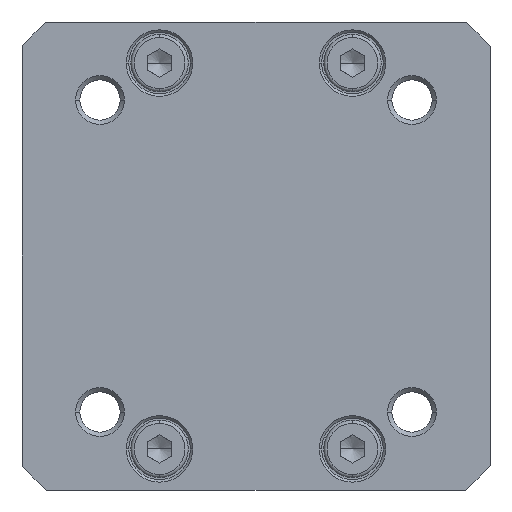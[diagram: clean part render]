
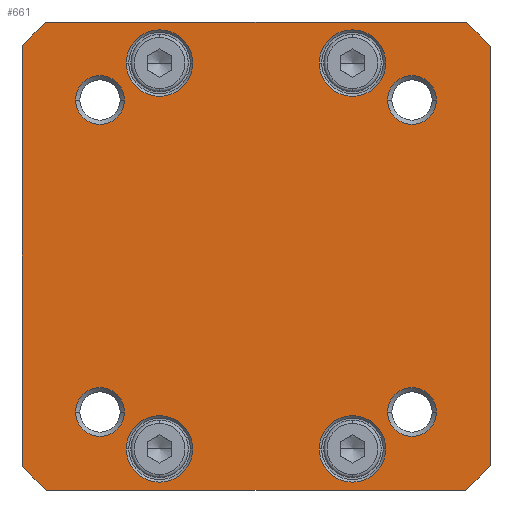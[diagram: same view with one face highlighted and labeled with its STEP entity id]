
A CAD part, front view. The second image highlights one B-rep face of the part: STEP entity #661.
In plain terms, the highlighted planar face has unit normal (0, -1, 0).
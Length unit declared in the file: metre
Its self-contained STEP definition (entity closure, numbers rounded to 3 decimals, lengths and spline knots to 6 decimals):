
#661=ADVANCED_FACE('',(#1272,#1273,#1274,#1275,#1276,#1277,#1278,#1279,#1280),#1281,.F.);
#1272=FACE_OUTER_BOUND('',#2039,.T.);
#1273=FACE_BOUND('',#2040,.T.);
#1274=FACE_BOUND('',#2041,.T.);
#1275=FACE_BOUND('',#2042,.T.);
#1276=FACE_BOUND('',#2043,.T.);
#1277=FACE_BOUND('',#2044,.T.);
#1278=FACE_BOUND('',#2045,.T.);
#1279=FACE_BOUND('',#2046,.T.);
#1280=FACE_BOUND('',#2047,.T.);
#1281=PLANE('',#2048);
#2039=EDGE_LOOP('',(#4085,#4086,#4087,#4088,#4089,#4090,#4091,#4092));
#2040=EDGE_LOOP('',(#4093,#4094));
#2041=EDGE_LOOP('',(#4095,#4096));
#2042=EDGE_LOOP('',(#4097,#4098));
#2043=EDGE_LOOP('',(#4099,#4100));
#2044=EDGE_LOOP('',(#4101,#4102));
#2045=EDGE_LOOP('',(#4103,#4104));
#2046=EDGE_LOOP('',(#4105,#4106));
#2047=EDGE_LOOP('',(#4107,#4108));
#2048=AXIS2_PLACEMENT_3D('',#4109,#4110,#4111);
#4085=ORIENTED_EDGE('',*,*,#5647,.F.);
#4086=ORIENTED_EDGE('',*,*,#5648,.F.);
#4087=ORIENTED_EDGE('',*,*,#5649,.F.);
#4088=ORIENTED_EDGE('',*,*,#5650,.F.);
#4089=ORIENTED_EDGE('',*,*,#5651,.F.);
#4090=ORIENTED_EDGE('',*,*,#5652,.F.);
#4091=ORIENTED_EDGE('',*,*,#5653,.F.);
#4092=ORIENTED_EDGE('',*,*,#5654,.F.);
#4093=ORIENTED_EDGE('',*,*,#5655,.F.);
#4094=ORIENTED_EDGE('',*,*,#5513,.F.);
#4095=ORIENTED_EDGE('',*,*,#5656,.F.);
#4096=ORIENTED_EDGE('',*,*,#5489,.F.);
#4097=ORIENTED_EDGE('',*,*,#5657,.F.);
#4098=ORIENTED_EDGE('',*,*,#5477,.F.);
#4099=ORIENTED_EDGE('',*,*,#5658,.F.);
#4100=ORIENTED_EDGE('',*,*,#5461,.F.);
#4101=ORIENTED_EDGE('',*,*,#5659,.F.);
#4102=ORIENTED_EDGE('',*,*,#5469,.F.);
#4103=ORIENTED_EDGE('',*,*,#5660,.F.);
#4104=ORIENTED_EDGE('',*,*,#5485,.F.);
#4105=ORIENTED_EDGE('',*,*,#5661,.F.);
#4106=ORIENTED_EDGE('',*,*,#5501,.F.);
#4107=ORIENTED_EDGE('',*,*,#5662,.F.);
#4108=ORIENTED_EDGE('',*,*,#5525,.F.);
#4109=CARTESIAN_POINT('',(0.,-0.007625,0.));
#4110=DIRECTION('',(-0.0,1.0,0.0));
#4111=DIRECTION('',(1.0,0.0,0.0));
#5461=EDGE_CURVE('',#6678,#6680,#6681,.T.);
#5469=EDGE_CURVE('',#6692,#6694,#6695,.T.);
#5477=EDGE_CURVE('',#6706,#6708,#6709,.T.);
#5485=EDGE_CURVE('',#6720,#6722,#6723,.T.);
#5489=EDGE_CURVE('',#6726,#6729,#6730,.T.);
#5501=EDGE_CURVE('',#6746,#6749,#6750,.T.);
#5513=EDGE_CURVE('',#6766,#6769,#6770,.T.);
#5525=EDGE_CURVE('',#6786,#6789,#6790,.T.);
#5647=EDGE_CURVE('',#7015,#7016,#7017,.T.);
#5648=EDGE_CURVE('',#7018,#7015,#7019,.T.);
#5649=EDGE_CURVE('',#7020,#7018,#7021,.T.);
#5650=EDGE_CURVE('',#7022,#7020,#7023,.T.);
#5651=EDGE_CURVE('',#7024,#7022,#7025,.T.);
#5652=EDGE_CURVE('',#7026,#7024,#7027,.T.);
#5653=EDGE_CURVE('',#7028,#7026,#7029,.T.);
#5654=EDGE_CURVE('',#7016,#7028,#7030,.T.);
#5655=EDGE_CURVE('',#6769,#6766,#7031,.T.);
#5656=EDGE_CURVE('',#6729,#6726,#7032,.T.);
#5657=EDGE_CURVE('',#6708,#6706,#7033,.T.);
#5658=EDGE_CURVE('',#6680,#6678,#7034,.T.);
#5659=EDGE_CURVE('',#6694,#6692,#7035,.T.);
#5660=EDGE_CURVE('',#6722,#6720,#7036,.T.);
#5661=EDGE_CURVE('',#6749,#6746,#7037,.T.);
#5662=EDGE_CURVE('',#6789,#6786,#7038,.T.);
#6678=VERTEX_POINT('',#8730);
#6680=VERTEX_POINT('',#8733);
#6681=CIRCLE('',#8734,0.00405);
#6692=VERTEX_POINT('',#8748);
#6694=VERTEX_POINT('',#8751);
#6695=CIRCLE('',#8752,0.00405);
#6706=VERTEX_POINT('',#8766);
#6708=VERTEX_POINT('',#8769);
#6709=CIRCLE('',#8770,0.00405);
#6720=VERTEX_POINT('',#8784);
#6722=VERTEX_POINT('',#8787);
#6723=CIRCLE('',#8788,0.00405);
#6726=VERTEX_POINT('',#8792);
#6729=VERTEX_POINT('',#8796);
#6730=CIRCLE('',#8797,0.002959);
#6746=VERTEX_POINT('',#8818);
#6749=VERTEX_POINT('',#8822);
#6750=CIRCLE('',#8823,0.002959);
#6766=VERTEX_POINT('',#8844);
#6769=VERTEX_POINT('',#8848);
#6770=CIRCLE('',#8849,0.002959);
#6786=VERTEX_POINT('',#8870);
#6789=VERTEX_POINT('',#8874);
#6790=CIRCLE('',#8875,0.002959);
#7015=VERTEX_POINT('',#9414);
#7016=VERTEX_POINT('',#9415);
#7017=CIRCLE('',#9416,0.03825);
#7018=VERTEX_POINT('',#9417);
#7019=LINE('',#9418,#9419);
#7020=VERTEX_POINT('',#9420);
#7021=CIRCLE('',#9421,0.03825);
#7022=VERTEX_POINT('',#9422);
#7023=LINE('',#9423,#9424);
#7024=VERTEX_POINT('',#9425);
#7025=CIRCLE('',#9426,0.03825);
#7026=VERTEX_POINT('',#9427);
#7027=LINE('',#9428,#9429);
#7028=VERTEX_POINT('',#9430);
#7029=CIRCLE('',#9431,0.03825);
#7030=LINE('',#9432,#9433);
#7031=CIRCLE('',#9434,0.002959);
#7032=CIRCLE('',#9435,0.002959);
#7033=CIRCLE('',#9436,0.00405);
#7034=CIRCLE('',#9437,0.00405);
#7035=CIRCLE('',#9438,0.00405);
#7036=CIRCLE('',#9439,0.00405);
#7037=CIRCLE('',#9440,0.002959);
#7038=CIRCLE('',#9441,0.002959);
#8730=CARTESIAN_POINT('',(-0.0158,-0.007625,0.0235));
#8733=CARTESIAN_POINT('',(-0.0077,-0.007625,0.0235));
#8734=AXIS2_PLACEMENT_3D('',#10762,#10763,#10764);
#8748=CARTESIAN_POINT('',(0.0077,-0.007625,0.0235));
#8751=CARTESIAN_POINT('',(0.0158,-0.007625,0.0235));
#8752=AXIS2_PLACEMENT_3D('',#10778,#10779,#10780);
#8766=CARTESIAN_POINT('',(0.0077,-0.007625,-0.0235));
#8769=CARTESIAN_POINT('',(0.0158,-0.007625,-0.0235));
#8770=AXIS2_PLACEMENT_3D('',#10794,#10795,#10796);
#8784=CARTESIAN_POINT('',(-0.0158,-0.007625,-0.0235));
#8787=CARTESIAN_POINT('',(-0.0077,-0.007625,-0.0235));
#8788=AXIS2_PLACEMENT_3D('',#10810,#10811,#10812);
#8792=CARTESIAN_POINT('',(-0.021959,-0.007625,0.019));
#8796=CARTESIAN_POINT('',(-0.016042,-0.007625,0.019));
#8797=AXIS2_PLACEMENT_3D('',#10818,#10819,#10820);
#8818=CARTESIAN_POINT('',(0.016042,-0.007625,0.019));
#8822=CARTESIAN_POINT('',(0.021959,-0.007625,0.019));
#8823=AXIS2_PLACEMENT_3D('',#10842,#10843,#10844);
#8844=CARTESIAN_POINT('',(0.016042,-0.007625,-0.019));
#8848=CARTESIAN_POINT('',(0.021959,-0.007625,-0.019));
#8849=AXIS2_PLACEMENT_3D('',#10866,#10867,#10868);
#8870=CARTESIAN_POINT('',(-0.021959,-0.007625,-0.019));
#8874=CARTESIAN_POINT('',(-0.016042,-0.007625,-0.019));
#8875=AXIS2_PLACEMENT_3D('',#10890,#10891,#10892);
#9414=CARTESIAN_POINT('',(0.025511,-0.007625,0.0285));
#9415=CARTESIAN_POINT('',(0.0285,-0.007625,0.025511));
#9416=AXIS2_PLACEMENT_3D('',#11081,#11082,#11083);
#9417=CARTESIAN_POINT('',(-0.025511,-0.007625,0.0285));
#9418=CARTESIAN_POINT('',(-0.025511,-0.007625,0.0285));
#9419=VECTOR('',#11084,0.051022);
#9420=CARTESIAN_POINT('',(-0.0285,-0.007625,0.025511));
#9421=AXIS2_PLACEMENT_3D('',#11085,#11086,#11087);
#9422=CARTESIAN_POINT('',(-0.0285,-0.007625,-0.025511));
#9423=CARTESIAN_POINT('',(-0.0285,-0.007625,-0.025511));
#9424=VECTOR('',#11088,0.051022);
#9425=CARTESIAN_POINT('',(-0.025511,-0.007625,-0.0285));
#9426=AXIS2_PLACEMENT_3D('',#11089,#11090,#11091);
#9427=CARTESIAN_POINT('',(0.025511,-0.007625,-0.0285));
#9428=CARTESIAN_POINT('',(0.025511,-0.007625,-0.0285));
#9429=VECTOR('',#11092,0.051022);
#9430=CARTESIAN_POINT('',(0.0285,-0.007625,-0.025511));
#9431=AXIS2_PLACEMENT_3D('',#11093,#11094,#11095);
#9432=CARTESIAN_POINT('',(0.0285,-0.007625,0.025511));
#9433=VECTOR('',#11096,0.051022);
#9434=AXIS2_PLACEMENT_3D('',#11097,#11098,#11099);
#9435=AXIS2_PLACEMENT_3D('',#11100,#11101,#11102);
#9436=AXIS2_PLACEMENT_3D('',#11103,#11104,#11105);
#9437=AXIS2_PLACEMENT_3D('',#11106,#11107,#11108);
#9438=AXIS2_PLACEMENT_3D('',#11109,#11110,#11111);
#9439=AXIS2_PLACEMENT_3D('',#11112,#11113,#11114);
#9440=AXIS2_PLACEMENT_3D('',#11115,#11116,#11117);
#9441=AXIS2_PLACEMENT_3D('',#11118,#11119,#11120);
#10762=CARTESIAN_POINT('',(-0.01175,-0.007625,0.0235));
#10763=DIRECTION('',(0.0,-1.0,0.0));
#10764=DIRECTION('',(-1.0,0.0,0.0));
#10778=CARTESIAN_POINT('',(0.01175,-0.007625,0.0235));
#10779=DIRECTION('',(0.0,-1.0,0.0));
#10780=DIRECTION('',(-1.0,0.0,0.0));
#10794=CARTESIAN_POINT('',(0.01175,-0.007625,-0.0235));
#10795=DIRECTION('',(0.0,-1.0,0.0));
#10796=DIRECTION('',(-1.0,0.0,0.0));
#10810=CARTESIAN_POINT('',(-0.01175,-0.007625,-0.0235));
#10811=DIRECTION('',(0.0,-1.0,0.0));
#10812=DIRECTION('',(-1.0,0.0,0.0));
#10818=CARTESIAN_POINT('',(-0.019,-0.007625,0.019));
#10819=DIRECTION('',(0.0,-1.0,0.0));
#10820=DIRECTION('',(-1.0,0.0,0.0));
#10842=CARTESIAN_POINT('',(0.019,-0.007625,0.019));
#10843=DIRECTION('',(0.0,-1.0,0.0));
#10844=DIRECTION('',(-1.0,0.0,0.0));
#10866=CARTESIAN_POINT('',(0.019,-0.007625,-0.019));
#10867=DIRECTION('',(0.0,-1.0,0.0));
#10868=DIRECTION('',(-1.0,0.0,0.0));
#10890=CARTESIAN_POINT('',(-0.019,-0.007625,-0.019));
#10891=DIRECTION('',(0.0,-1.0,0.0));
#10892=DIRECTION('',(-1.0,0.0,0.0));
#11081=CARTESIAN_POINT('',(0.0,-0.007625,0.0));
#11082=DIRECTION('',(-0.0,1.0,0.0));
#11083=DIRECTION('',(0.667,0.0,0.745));
#11084=DIRECTION('',(1.0,0.0,0.0));
#11085=CARTESIAN_POINT('',(0.0,-0.007625,0.0));
#11086=DIRECTION('',(0.0,1.0,0.0));
#11087=DIRECTION('',(-0.745,0.0,0.667));
#11088=DIRECTION('',(0.0,0.0,1.0));
#11089=CARTESIAN_POINT('',(0.0,-0.007625,0.0));
#11090=DIRECTION('',(0.0,1.0,0.0));
#11091=DIRECTION('',(-0.667,0.0,-0.745));
#11092=DIRECTION('',(-1.0,0.0,0.0));
#11093=CARTESIAN_POINT('',(0.0,-0.007625,0.0));
#11094=DIRECTION('',(0.0,1.0,0.0));
#11095=DIRECTION('',(0.745,0.0,-0.667));
#11096=DIRECTION('',(0.0,0.0,-1.0));
#11097=CARTESIAN_POINT('',(0.019,-0.007625,-0.019));
#11098=DIRECTION('',(0.0,-1.0,0.0));
#11099=DIRECTION('',(-1.0,0.0,0.0));
#11100=CARTESIAN_POINT('',(-0.019,-0.007625,0.019));
#11101=DIRECTION('',(0.0,-1.0,0.0));
#11102=DIRECTION('',(-1.0,0.0,0.0));
#11103=CARTESIAN_POINT('',(0.01175,-0.007625,-0.0235));
#11104=DIRECTION('',(0.0,-1.0,0.0));
#11105=DIRECTION('',(-1.0,0.0,0.0));
#11106=CARTESIAN_POINT('',(-0.01175,-0.007625,0.0235));
#11107=DIRECTION('',(0.0,-1.0,0.0));
#11108=DIRECTION('',(-1.0,0.0,0.0));
#11109=CARTESIAN_POINT('',(0.01175,-0.007625,0.0235));
#11110=DIRECTION('',(0.0,-1.0,0.0));
#11111=DIRECTION('',(-1.0,0.0,0.0));
#11112=CARTESIAN_POINT('',(-0.01175,-0.007625,-0.0235));
#11113=DIRECTION('',(0.0,-1.0,0.0));
#11114=DIRECTION('',(-1.0,0.0,0.0));
#11115=CARTESIAN_POINT('',(0.019,-0.007625,0.019));
#11116=DIRECTION('',(0.0,-1.0,0.0));
#11117=DIRECTION('',(-1.0,0.0,0.0));
#11118=CARTESIAN_POINT('',(-0.019,-0.007625,-0.019));
#11119=DIRECTION('',(0.0,-1.0,0.0));
#11120=DIRECTION('',(-1.0,0.0,0.0));
